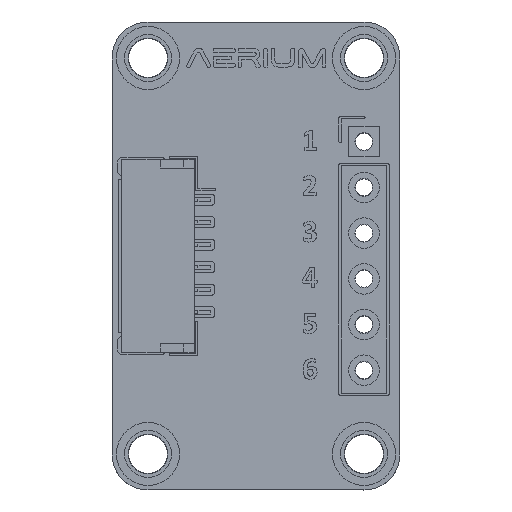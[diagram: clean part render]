
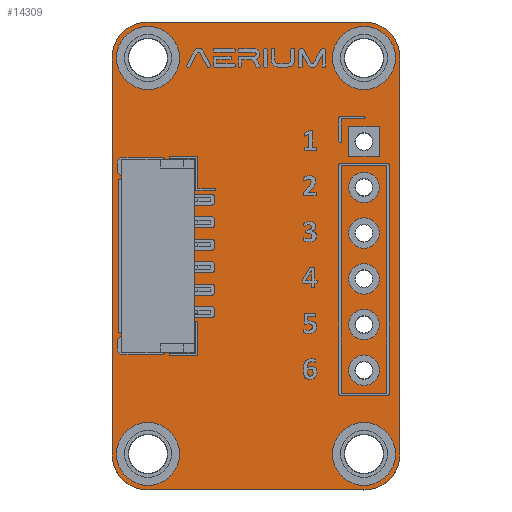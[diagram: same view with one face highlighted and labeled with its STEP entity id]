
A CAD part, top view. The second image highlights one B-rep face of the part: STEP entity #14309.
In plain terms, the highlighted planar face has unit normal (0, 0, 1).
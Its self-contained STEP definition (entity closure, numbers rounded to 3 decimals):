
#421=CIRCLE('',#15295,2.);
#436=CIRCLE('',#15314,2.);
#437=CIRCLE('',#15315,2.);
#438=CIRCLE('',#15316,2.);
#439=CIRCLE('',#15317,1.1);
#440=CIRCLE('',#15318,1.1);
#441=CIRCLE('',#15319,0.5);
#442=CIRCLE('',#15320,0.5);
#443=CIRCLE('',#15321,0.5);
#444=CIRCLE('',#15322,1.1);
#445=CIRCLE('',#15323,0.5);
#446=CIRCLE('',#15324,0.5);
#447=CIRCLE('',#15325,0.5);
#448=CIRCLE('',#15326,1.1);
#726=FACE_BOUND('',#1932,.T.);
#727=FACE_BOUND('',#1933,.T.);
#728=FACE_BOUND('',#1934,.T.);
#729=FACE_BOUND('',#1935,.T.);
#730=FACE_BOUND('',#1936,.T.);
#731=FACE_BOUND('',#1937,.T.);
#732=FACE_BOUND('',#1938,.T.);
#733=FACE_BOUND('',#1939,.T.);
#734=FACE_BOUND('',#1940,.T.);
#735=FACE_BOUND('',#1941,.T.);
#1274=FACE_OUTER_BOUND('',#1931,.T.);
#1931=EDGE_LOOP('',(#12883,#12884,#12885,#12886,#12887,#12888,#12889,#12890));
#1932=EDGE_LOOP('',(#12891));
#1933=EDGE_LOOP('',(#12892));
#1934=EDGE_LOOP('',(#12893));
#1935=EDGE_LOOP('',(#12894));
#1936=EDGE_LOOP('',(#12895));
#1937=EDGE_LOOP('',(#12896));
#1938=EDGE_LOOP('',(#12897));
#1939=EDGE_LOOP('',(#12898));
#1940=EDGE_LOOP('',(#12899));
#1941=EDGE_LOOP('',(#12900));
#3759=LINE('',#23413,#5584);
#3761=LINE('',#23417,#5586);
#3766=LINE('',#23455,#5591);
#3767=LINE('',#23459,#5592);
#5584=VECTOR('',#18888,1.);
#5586=VECTOR('',#18892,1.);
#5591=VECTOR('',#18929,1.);
#5592=VECTOR('',#18932,1.);
#7333=VERTEX_POINT('',#23402);
#7334=VERTEX_POINT('',#23404);
#7337=VERTEX_POINT('',#23411);
#7338=VERTEX_POINT('',#23416);
#7354=VERTEX_POINT('',#23452);
#7355=VERTEX_POINT('',#23454);
#7356=VERTEX_POINT('',#23456);
#7357=VERTEX_POINT('',#23458);
#7358=VERTEX_POINT('',#23461);
#7359=VERTEX_POINT('',#23463);
#7360=VERTEX_POINT('',#23465);
#7361=VERTEX_POINT('',#23467);
#7362=VERTEX_POINT('',#23469);
#7363=VERTEX_POINT('',#23471);
#7364=VERTEX_POINT('',#23473);
#7365=VERTEX_POINT('',#23475);
#7366=VERTEX_POINT('',#23477);
#7367=VERTEX_POINT('',#23479);
#9493=EDGE_CURVE('',#7333,#7334,#421,.T.);
#9497=EDGE_CURVE('',#7337,#7333,#3759,.T.);
#9499=EDGE_CURVE('',#7334,#7338,#3761,.T.);
#9517=EDGE_CURVE('',#7354,#7337,#436,.T.);
#9518=EDGE_CURVE('',#7355,#7354,#3766,.T.);
#9519=EDGE_CURVE('',#7356,#7355,#437,.T.);
#9520=EDGE_CURVE('',#7357,#7356,#3767,.T.);
#9521=EDGE_CURVE('',#7338,#7357,#438,.T.);
#9522=EDGE_CURVE('',#7358,#7358,#439,.T.);
#9523=EDGE_CURVE('',#7359,#7359,#440,.T.);
#9524=EDGE_CURVE('',#7360,#7360,#441,.T.);
#9525=EDGE_CURVE('',#7361,#7361,#442,.T.);
#9526=EDGE_CURVE('',#7362,#7362,#443,.T.);
#9527=EDGE_CURVE('',#7363,#7363,#444,.T.);
#9528=EDGE_CURVE('',#7364,#7364,#445,.T.);
#9529=EDGE_CURVE('',#7365,#7365,#446,.T.);
#9530=EDGE_CURVE('',#7366,#7366,#447,.T.);
#9531=EDGE_CURVE('',#7367,#7367,#448,.T.);
#12883=ORIENTED_EDGE('',*,*,#9493,.F.);
#12884=ORIENTED_EDGE('',*,*,#9497,.F.);
#12885=ORIENTED_EDGE('',*,*,#9517,.F.);
#12886=ORIENTED_EDGE('',*,*,#9518,.F.);
#12887=ORIENTED_EDGE('',*,*,#9519,.F.);
#12888=ORIENTED_EDGE('',*,*,#9520,.F.);
#12889=ORIENTED_EDGE('',*,*,#9521,.F.);
#12890=ORIENTED_EDGE('',*,*,#9499,.F.);
#12891=ORIENTED_EDGE('',*,*,#9522,.T.);
#12892=ORIENTED_EDGE('',*,*,#9523,.T.);
#12893=ORIENTED_EDGE('',*,*,#9524,.T.);
#12894=ORIENTED_EDGE('',*,*,#9525,.T.);
#12895=ORIENTED_EDGE('',*,*,#9526,.T.);
#12896=ORIENTED_EDGE('',*,*,#9527,.T.);
#12897=ORIENTED_EDGE('',*,*,#9528,.T.);
#12898=ORIENTED_EDGE('',*,*,#9529,.T.);
#12899=ORIENTED_EDGE('',*,*,#9530,.T.);
#12900=ORIENTED_EDGE('',*,*,#9531,.T.);
#13392=PLANE('',#15313);
#14309=ADVANCED_FACE('',(#1274,#726,#727,#728,#729,#730,#731,#732,#733,
#734,#735),#13392,.T.);
#15295=AXIS2_PLACEMENT_3D('',#23405,#18880,#18881);
#15313=AXIS2_PLACEMENT_3D('',#23451,#18925,#18926);
#15314=AXIS2_PLACEMENT_3D('',#23453,#18927,#18928);
#15315=AXIS2_PLACEMENT_3D('',#23457,#18930,#18931);
#15316=AXIS2_PLACEMENT_3D('',#23460,#18933,#18934);
#15317=AXIS2_PLACEMENT_3D('',#23462,#18935,#18936);
#15318=AXIS2_PLACEMENT_3D('',#23464,#18937,#18938);
#15319=AXIS2_PLACEMENT_3D('',#23466,#18939,#18940);
#15320=AXIS2_PLACEMENT_3D('',#23468,#18941,#18942);
#15321=AXIS2_PLACEMENT_3D('',#23470,#18943,#18944);
#15322=AXIS2_PLACEMENT_3D('',#23472,#18945,#18946);
#15323=AXIS2_PLACEMENT_3D('',#23474,#18947,#18948);
#15324=AXIS2_PLACEMENT_3D('',#23476,#18949,#18950);
#15325=AXIS2_PLACEMENT_3D('',#23478,#18951,#18952);
#15326=AXIS2_PLACEMENT_3D('',#23480,#18953,#18954);
#18880=DIRECTION('center_axis',(0.,0.,-1.));
#18881=DIRECTION('ref_axis',(0.,1.,0.));
#18888=DIRECTION('',(1.,0.,0.));
#18892=DIRECTION('',(0.,-1.,0.));
#18925=DIRECTION('center_axis',(0.,0.,1.));
#18926=DIRECTION('ref_axis',(1.,0.,0.));
#18927=DIRECTION('center_axis',(0.,0.,-1.));
#18928=DIRECTION('ref_axis',(-1.,0.,0.));
#18929=DIRECTION('',(0.,1.,0.));
#18930=DIRECTION('center_axis',(0.,0.,-1.));
#18931=DIRECTION('ref_axis',(0.,-1.,0.));
#18932=DIRECTION('',(-1.,0.,0.));
#18933=DIRECTION('center_axis',(0.,0.,-1.));
#18934=DIRECTION('ref_axis',(1.,0.,0.));
#18935=DIRECTION('center_axis',(0.,0.,-1.));
#18936=DIRECTION('ref_axis',(0.,-1.,0.));
#18937=DIRECTION('center_axis',(0.,0.,-1.));
#18938=DIRECTION('ref_axis',(0.,-1.,0.));
#18939=DIRECTION('center_axis',(0.,0.,-1.));
#18940=DIRECTION('ref_axis',(0.,-1.,0.));
#18941=DIRECTION('center_axis',(0.,0.,-1.));
#18942=DIRECTION('ref_axis',(0.,-1.,0.));
#18943=DIRECTION('center_axis',(0.,0.,-1.));
#18944=DIRECTION('ref_axis',(0.,-1.,0.));
#18945=DIRECTION('center_axis',(0.,0.,-1.));
#18946=DIRECTION('ref_axis',(0.,-1.,0.));
#18947=DIRECTION('center_axis',(0.,0.,-1.));
#18948=DIRECTION('ref_axis',(0.,-1.,0.));
#18949=DIRECTION('center_axis',(0.,0.,-1.));
#18950=DIRECTION('ref_axis',(0.,-1.,0.));
#18951=DIRECTION('center_axis',(0.,0.,-1.));
#18952=DIRECTION('ref_axis',(0.,-1.,0.));
#18953=DIRECTION('center_axis',(0.,0.,-1.));
#18954=DIRECTION('ref_axis',(0.,-1.,0.));
#23402=CARTESIAN_POINT('',(13.,2.,1.51));
#23404=CARTESIAN_POINT('',(15.,0.,1.51));
#23405=CARTESIAN_POINT('Origin',(13.,0.,1.51));
#23411=CARTESIAN_POINT('',(1.,2.,1.51));
#23413=CARTESIAN_POINT('',(1.,2.,1.51));
#23416=CARTESIAN_POINT('',(15.,-22.,1.51));
#23417=CARTESIAN_POINT('',(15.,0.,1.51));
#23451=CARTESIAN_POINT('Origin',(0.,0.,1.51));
#23452=CARTESIAN_POINT('',(-1.,0.,1.51));
#23453=CARTESIAN_POINT('Origin',(1.,0.,1.51));
#23454=CARTESIAN_POINT('',(-1.,-22.,1.51));
#23455=CARTESIAN_POINT('',(-1.,-22.,1.51));
#23456=CARTESIAN_POINT('',(1.,-24.,1.51));
#23457=CARTESIAN_POINT('Origin',(1.,-22.,1.51));
#23458=CARTESIAN_POINT('',(13.,-24.,1.51));
#23459=CARTESIAN_POINT('',(13.,-24.,1.51));
#23460=CARTESIAN_POINT('Origin',(13.,-22.,1.51));
#23461=CARTESIAN_POINT('',(1.,-20.9,1.51));
#23462=CARTESIAN_POINT('Origin',(1.,-22.,1.51));
#23463=CARTESIAN_POINT('',(13.,-20.9,1.51));
#23464=CARTESIAN_POINT('Origin',(13.,-22.,1.51));
#23465=CARTESIAN_POINT('',(13.,-16.85,1.51));
#23466=CARTESIAN_POINT('Origin',(13.,-17.35,1.51));
#23467=CARTESIAN_POINT('',(13.,-14.31,1.51));
#23468=CARTESIAN_POINT('Origin',(13.,-14.81,1.51));
#23469=CARTESIAN_POINT('',(13.,-11.77,1.51));
#23470=CARTESIAN_POINT('Origin',(13.,-12.27,1.51));
#23471=CARTESIAN_POINT('',(1.,1.1,1.51));
#23472=CARTESIAN_POINT('Origin',(1.,0.,1.51));
#23473=CARTESIAN_POINT('',(13.,-9.23,1.51));
#23474=CARTESIAN_POINT('Origin',(13.,-9.73,1.51));
#23475=CARTESIAN_POINT('',(13.,-6.69,1.51));
#23476=CARTESIAN_POINT('Origin',(13.,-7.19,1.51));
#23477=CARTESIAN_POINT('',(13.,-4.15,1.51));
#23478=CARTESIAN_POINT('Origin',(13.,-4.65,1.51));
#23479=CARTESIAN_POINT('',(13.,1.1,1.51));
#23480=CARTESIAN_POINT('Origin',(13.,0.,1.51));
